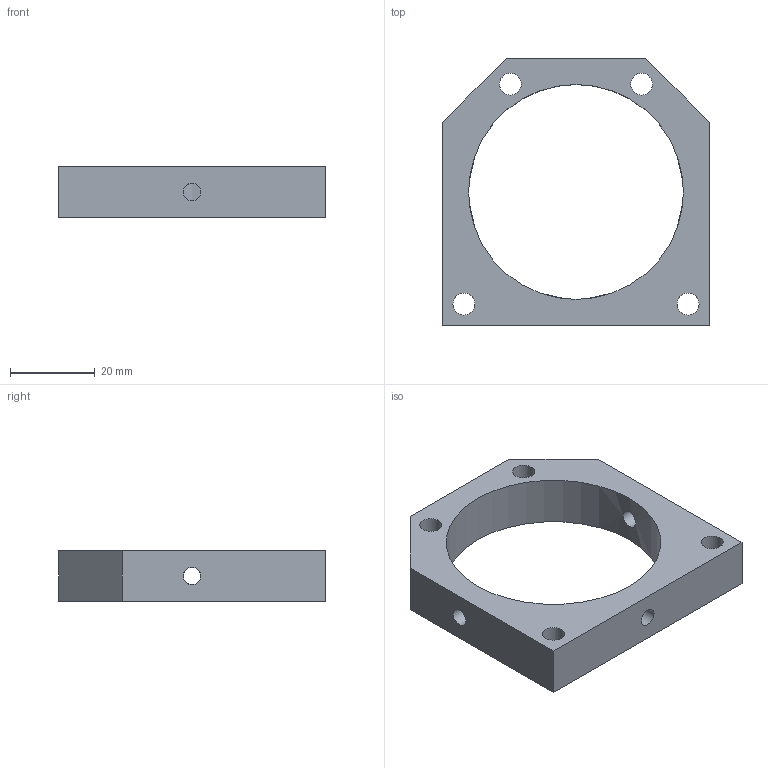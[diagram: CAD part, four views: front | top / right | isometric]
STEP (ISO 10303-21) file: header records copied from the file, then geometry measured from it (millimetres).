
FILE_DESCRIPTION(/* description */ (''),/* implementation_level */ '2;1');
FILE_NAME(/* name */ 'C:/Users/David Florian/Desktop/Cyber-Scooter-Step-Files/4-Compression-Clamp.step',/* time_stamp */ '2020-12-14T22:10:32-06:00',/* author */ (''),/* organization */ (''),/* preprocessor_version */ 'ST-DEVELOPER v18.1',/* originating_system */ 'Autodesk Translation Framework v9.7.1.1290',/* authorisation */ '');
FILE_SCHEMA (('AUTOMOTIVE_DESIGN { 1 0 10303 214 3 1 1 }'));
Length unit declared in the file: millimetre
Products named in the file (2): cutting-Multiple-parts; Steering-Column-Securing
Assembly tree (1 placements, depth 2):
  cutting-Multiple-parts
    Steering-Column-Securing
Bounding box: 63 x 63 x 12 mm (x, y, z)
Volume: 19332.1 mm3; surface area: 8936.8 mm2
Topology: 1 solids, 1 shells, 16 faces, 46 edges, 31 vertices
Faces by surface type: cylinder 8, plane 8
Full cylindrical faces by diameter (mm): 4.2 x3, 5.2 x4, 50.8 x1
Entity records: 706 total; most frequent: CARTESIAN_POINT 198, ORIENTED_EDGE 92, DIRECTION 91, EDGE_CURVE 46, AXIS2_PLACEMENT_3D 32, EDGE_LOOP 31, VERTEX_POINT 31, LINE 27
